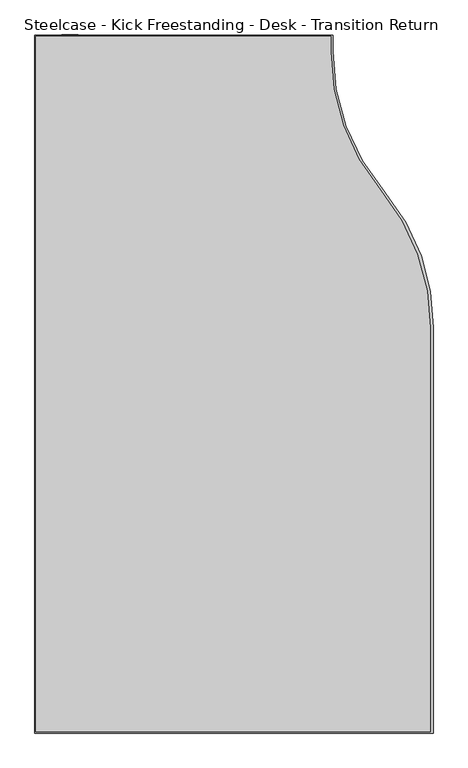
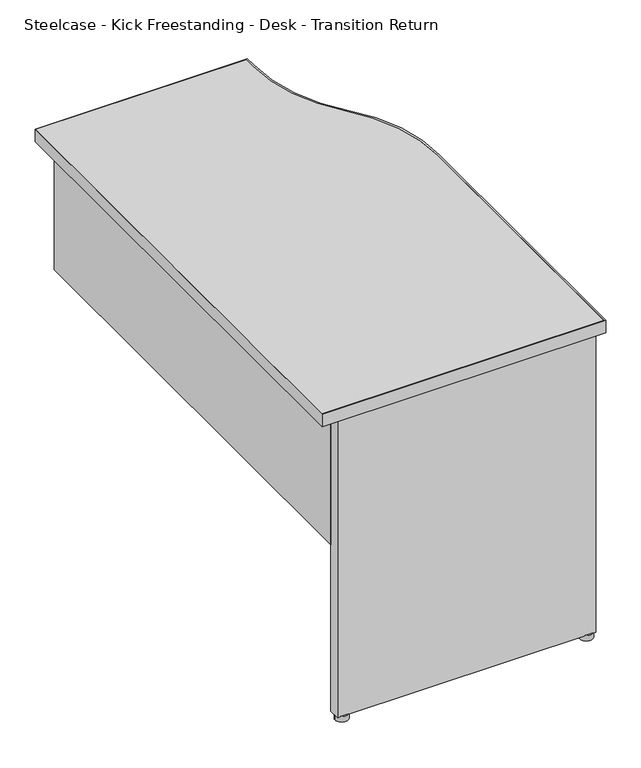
"""IFC4 building model written with IfcOpenShell, lengths in millimetres: furniture geometry, Steelcase - Kick Freestanding - Desk - Transition Return : 18D x 42W - Left - Half Panel."""

from ifc_helpers import new_model, si_unit, point, frame, frame_2d, origin, origin_with_axes, place, context, project, spatial, polyline, circle_curve, trimmed, segment, composite_curve, outline, extrude, source, transform, mapped, element, save


def steelcase_kick_freestanding_desk_transition_return_7847acee(model_context):
    return source(origin(), model_context, "Body", "SweptSolid", [
        extrude(outline(composite_curve([segment(trimmed(circle_curve(frame_2d((2220.2474425, -1588.7225152)), 13.97), [point((2206.2774425, -1588.7225152))], [point((2234.2174425, -1588.7225152))], False, "CARTESIAN"), True, "CONTINUOUS"), segment(trimmed(circle_curve(frame_2d((2220.2474425, -1588.7225152)), 13.97), [point((2234.2174425, -1588.7225152))], [point((2206.2774425, -1588.7225152))], False, "CARTESIAN"), True, "CONTINUOUS")], self_intersect=False)), origin_with_axes(), (0.0, 0.0, 1.0), 12.7),
        extrude(outline(composite_curve([segment(trimmed(circle_curve(frame_2d((2745.2654425, -1588.6400875)), 13.97), [point((2731.2954425, -1588.6400875))], [point((2759.2354425, -1588.6400875))], False, "CARTESIAN"), True, "CONTINUOUS"), segment(trimmed(circle_curve(frame_2d((2745.2654425, -1588.6400875)), 13.97), [point((2759.2354425, -1588.6400875))], [point((2731.2954425, -1588.6400875))], False, "CARTESIAN"), True, "CONTINUOUS")], self_intersect=False)), origin_with_axes(), (0.0, 0.0, 1.0), 12.7),
        extrude(outline(composite_curve([segment(polyline([(2616.8176592, -547.8051152), (2616.8176592, -572.1320079)]), True, "CONTINUOUS"), segment(trimmed(circle_curve(frame_2d((2941.6463505, -574.5942763)), 324.8380233), [point((2616.8176592, -572.1320079))], [point((2692.5587903, -783.1011797))], True, "CARTESIAN"), True, "CONTINUOUS"), segment(trimmed(circle_curve(frame_2d((2440.4841513, -994.1085152)), 328.7335079), [point((2692.5587903, -783.1011797))], [point((2769.2176592, -994.1085152))], False, "CARTESIAN"), True, "CONTINUOUS"), segment(polyline([(2769.2176592, -994.1085152), (2769.2176592, -1611.8619332), (2164.8500425, -1611.8619332), (2164.8500425, -547.8051152), (2616.8176592, -547.8051152)]), True, "CONTINUOUS")], self_intersect=False)), frame((0.0, 0.0, 694.944), z_axis=(0.0, 0.0, 1.0), x_axis=(1.0, 0.0, 0.0)), (0.0, 0.0, 1.0), 28.956),
        extrude(outline(composite_curve([segment(polyline([(2619.7894255, -546.8145152), (2619.7894255, -571.0836731)]), True, "CONTINUOUS"), segment(trimmed(circle_curve(frame_2d((2951.3460478, -571.0836731)), 331.5566223), [point((2619.7894255, -571.0836731))], [point((2699.261298, -786.4509703))], True, "CARTESIAN"), True, "CONTINUOUS"), segment(trimmed(circle_curve(frame_2d((2463.6949436, -987.7058619)), 309.8306613), [point((2699.261298, -786.4509703))], [point((2773.4594425, -994.1085152))], False, "CARTESIAN"), True, "CONTINUOUS"), segment(polyline([(2773.4594425, -994.1085152), (2773.4594425, -1613.6145152), (2163.8594425, -1613.6145152), (2163.8594425, -546.8145152), (2619.7894255, -546.8145152)]), True, "CONTINUOUS")], self_intersect=False), holes=[composite_curve([segment(polyline([(2616.8176592, -547.8051152), (2164.8500425, -547.8051152), (2164.8500425, -1611.8619332), (2769.2176592, -1611.8619332), (2769.2176592, -994.1085152)]), True, "CONTINUOUS"), segment(trimmed(circle_curve(frame_2d((2440.4841513, -994.1085152)), 328.7335079), [point((2769.2176592, -994.1085152))], [point((2692.5587903, -783.1011797))], True, "CARTESIAN"), True, "CONTINUOUS"), segment(trimmed(circle_curve(frame_2d((2941.6463505, -574.5942763)), 324.8380233), [point((2692.5587903, -783.1011797))], [point((2616.8176592, -572.1320079))], False, "CARTESIAN"), True, "CONTINUOUS"), segment(polyline([(2616.8176592, -572.1320079), (2616.8176592, -547.8051152)]), True, "CONTINUOUS")], self_intersect=False)]), frame((0.0, 0.0, 694.944), z_axis=(0.0, 0.0, 1.0), x_axis=(1.0, 0.0, 0.0)), (0.0, 0.0, 1.0), 28.956),
        extrude(outline(polyline([(2205.0074425, -1575.6669041), (2328.2736437, -1575.6669041), (2328.2736437, -1598.0951136), (2427.9940467, -1598.0951136), (2427.9940467, -1575.6669041), (2536.7314502, -1575.6669041), (2536.7314502, -1598.0951136), (2636.4518532, -1598.0951136), (2636.4518532, -1575.6669041), (2759.4894376, -1575.6669041), (2759.4894376, -1600.1525152), (2205.0074425, -1600.1525152), (2205.0074425, -1575.6669041)])), frame((0.0, 0.0, 12.7), z_axis=(0.0, 0.0, 1.0), x_axis=(1.0, 0.0, 0.0)), (0.0, 0.0, 1.0), 682.244),
        extrude(outline(polyline([(2230.4074426, -546.0525152), (2230.4074426, -1575.6669041), (2205.0074425, -1575.6669041), (2205.0074425, -546.0525152), (2230.4074426, -546.0525152)])), frame((0.0, 0.0, 390.144), z_axis=(0.0, 0.0, 1.0), x_axis=(1.0, 0.0, 0.0)), (0.0, 0.0, 1.0), 304.8),
    ])


if __name__ == "__main__":
    model = new_model("IFC4")
    model_context = context("Model", 3, world=origin())
    ifc_project = project(units=[si_unit("LENGTHUNIT", "METRE", prefix="MILLI")], contexts=[model_context])
    site = spatial("IfcSite", under=ifc_project)
    building = spatial("IfcBuilding", under=site)
    placement = place(None, origin())
    steelcase_kick_freestanding_desk_transition_return_shape = steelcase_kick_freestanding_desk_transition_return_7847acee(model_context)
    element("IfcFurniture", 1, ObjectType="Steelcase - Kick Freestanding - Desk - Transition Return : 18D x 42W - Left - Half Panel", at=placement, inside=building, context=model_context, shape_type="MappedRepresentation", body=[
        mapped(steelcase_kick_freestanding_desk_transition_return_shape, transform((0.0, 0.0, 0.0), x_axis=(1.0, 0.0, 0.0), y_axis=(0.0, 1.0, 0.0), z_axis=(0.0, 0.0, 1.0))),
    ])
    save(model, "model.ifc")
